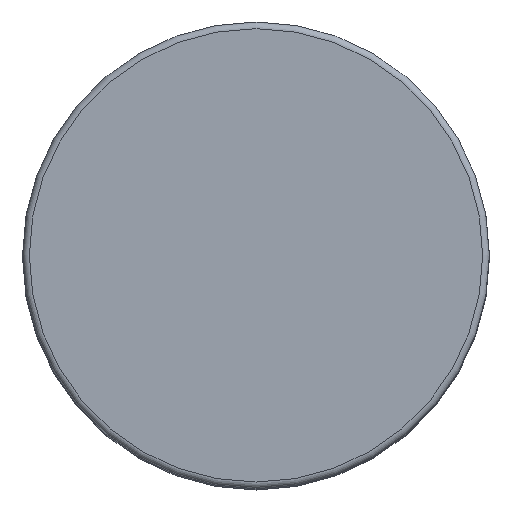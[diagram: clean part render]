
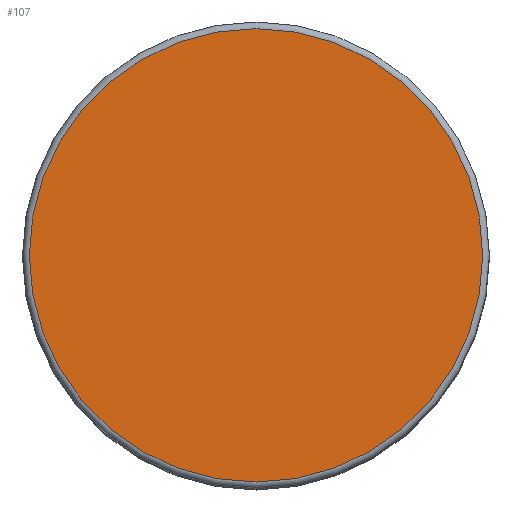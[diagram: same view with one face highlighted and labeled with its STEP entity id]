
A CAD part, top view. The second image highlights one B-rep face of the part: STEP entity #107.
In plain terms, the highlighted planar face has unit normal (0, 0, 1).
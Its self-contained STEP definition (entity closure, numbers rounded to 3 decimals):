
#107=ADVANCED_FACE('',(#1331),#1333,.T.);
#1331=FACE_BOUND('',#1332,.T.);
#1332=EDGE_LOOP('',(#2773));
#1333=PLANE('',#1334);
#1334=AXIS2_PLACEMENT_3D('',#1335,#1336,#1337);
#1335=CARTESIAN_POINT('',(0.,0.,95.));
#1336=DIRECTION('',(0.,0.,1.));
#1337=DIRECTION('',(-1.,0.,0.));
#2773=ORIENTED_EDGE('',*,*,#3454,.F.);
#3454=EDGE_CURVE('',#3807,#3807,#3808,.T.);
#3807=VERTEX_POINT('',#4591);
#3808=CIRCLE('',#4592,33.975);
#4591=CARTESIAN_POINT('',(-33.975,0.,95.));
#4592=AXIS2_PLACEMENT_3D('',#4593,#4594,#4595);
#4593=CARTESIAN_POINT('',(0.,0.,95.));
#4594=DIRECTION('',(0.,0.,-1.));
#4595=DIRECTION('',(-1.,0.,0.));
